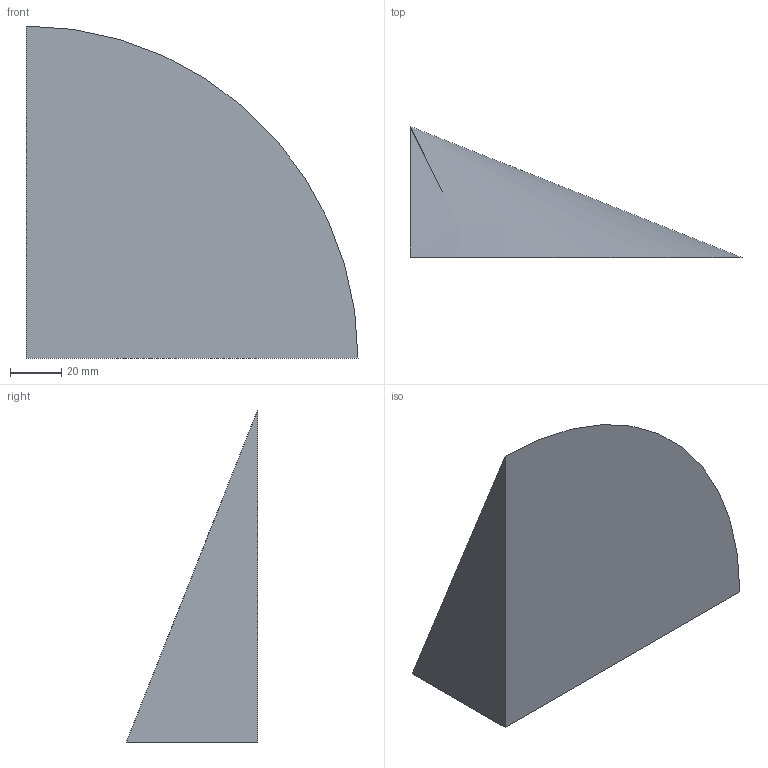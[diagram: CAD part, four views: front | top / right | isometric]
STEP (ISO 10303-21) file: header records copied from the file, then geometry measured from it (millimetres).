
FILE_DESCRIPTION(('CATIA V5 STEP Exchange'),'2;1');
FILE_NAME('C:\_Andres\UNIVERSIDAD\IQS\ASIGNATURAS\DAO\EXF\EXF-16172c\2inicio\Sala_Ferrero_Ej07_v29.stp','2017-03-05T21:18:15+00:00',('none'),('none'),'CATIA Version 5-6 Release 2014 SP1 HF18','CATIA V5 STEP AP203','none');
FILE_SCHEMA(('CONFIG_CONTROL_DESIGN'));
Length unit declared in the file: millimetre
Products named in the file (1): Sala_Ferrero_Ej07_v29
Bounding box: 129 x 51 x 129 mm (x, y, z)
Volume: 222186.8 mm3; surface area: 33703 mm2
Topology: 1 solids, 1 shells, 4 faces, 7 edges, 4 vertices
Faces by surface type: plane 3, cone 1
Entity records: 131 total; most frequent: CARTESIAN_POINT 15, DIRECTION 14, ORIENTED_EDGE 12, AXIS2_PLACEMENT_3D 6, EDGE_CURVE 6, VECTOR 5, LINE 5, ADVANCED_FACE 4
